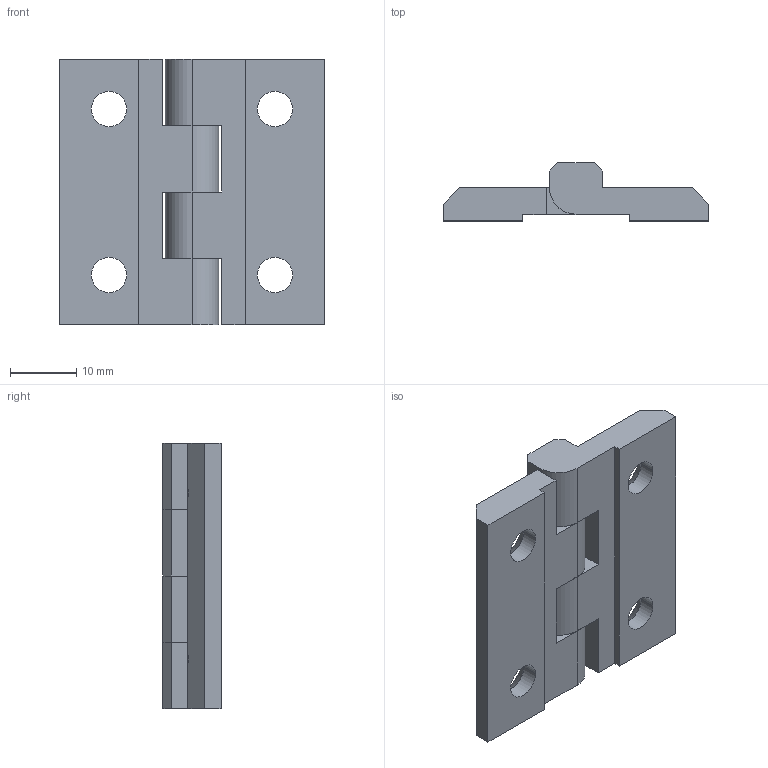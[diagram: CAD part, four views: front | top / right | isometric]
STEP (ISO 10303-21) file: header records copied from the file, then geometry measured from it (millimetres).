
FILE_DESCRIPTION(('STEP AP203'),'1');
FILE_NAME(' ',' ',('TraceParts'),('TraceParts S.A.'),'XStep 1.0',' ',' ');
FILE_SCHEMA(('CONFIG_CONTROL_DESIGN'));
Length unit declared in the file: millimetre
Products named in the file (2): 1; 2
Bounding box: 40 x 8.75 x 40 mm (x, y, z)
Volume: 7322.1 mm3; surface area: 5290.5 mm2
Topology: 2 solids, 2 shells, 75 faces, 214 edges, 140 vertices
Faces by surface type: plane 47, cylinder 20, cone 8
Entity records: 2548 total; most frequent: CARTESIAN_POINT 439, ORIENTED_EDGE 428, DIRECTION 416, EDGE_CURVE 214, LINE 158, VECTOR 158, VERTEX_POINT 140, AXIS2_PLACEMENT_3D 129
